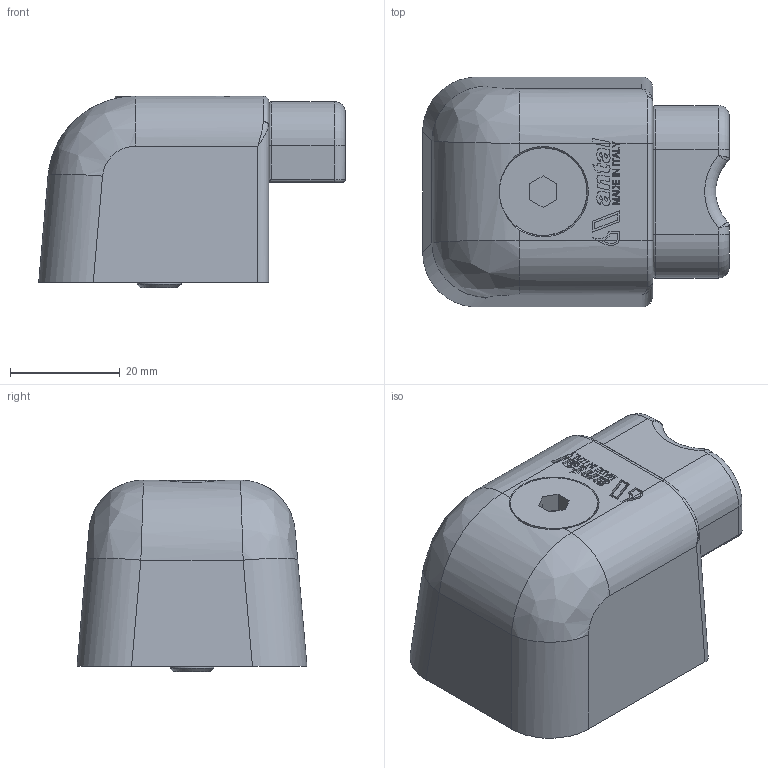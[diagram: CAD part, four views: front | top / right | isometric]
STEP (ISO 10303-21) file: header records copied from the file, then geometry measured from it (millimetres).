
FILE_DESCRIPTION(/* description */ (''),/* implementation_level */ '2;1');
FILE_NAME(/* name */ '\\SERVER2K12\Disegni CAD\Cad Library\3D - STP\Cars\4Race\4271.stp',/* time_stamp */ '2019-11-05T12:20:09+01:00',/* author */ ('francesca'),/* organization */ (''),/* preprocessor_version */ 'ST-DEVELOPER v16.5',/* originating_system */ 'Autodesk Inventor 2017',/* authorisation */ '');
FILE_SCHEMA (('CONFIG_CONTROL_DESIGN'));
Length unit declared in the file: millimetre
Products named in the file (1): 18042715
Bounding box: 56 x 42 x 35 mm (x, y, z)
Volume: 29667.5 mm3; surface area: 12122.8 mm2
Topology: 1 solids, 1 shells, 341 faces, 908 edges, 588 vertices
Faces by surface type: plane 204, bspline 70, cylinder 51, torus 13, cone 3
Full cylindrical faces by diameter (mm): 8 x1, 8.25 x1, 16 x1
Entity records: 11218 total; most frequent: CARTESIAN_POINT 3121, ORIENTED_EDGE 1794, DIRECTION 1441, EDGE_CURVE 897, LINE 623, VECTOR 623, VERTEX_POINT 586, AXIS2_PLACEMENT_3D 409
